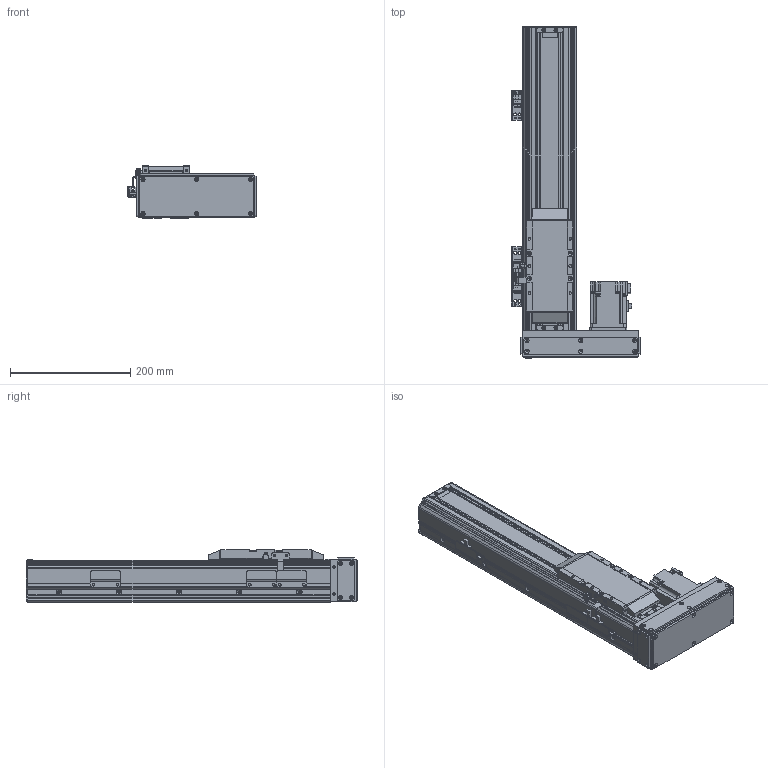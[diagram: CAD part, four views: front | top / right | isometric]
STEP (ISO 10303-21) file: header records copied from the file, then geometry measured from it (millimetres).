
FILE_DESCRIPTION(/* description */ (''),/* implementation_level */ '2;1');
FILE_NAME(/* name */ '\\192.168.0.160\disk1\HAN SHIN Master\B-설계부문\C-표준\B-2024년\BC02-표준도면\+로봇 개선표준도면\표준 승인도 폴더 - 재작업\3D\HC Type\HC90\우병렬\HC90-R20-N1B-0300-L10.stp',/* time_stamp */ '2024-03-15T14:55:09+09:00',/* author */ ('User'),/* organization */ (''),/* preprocessor_version */ 'ST-DEVELOPER v18.1',/* originating_system */ 'Autodesk Inventor 2022',/* authorisation */ '');
FILE_SCHEMA (('AUTOMOTIVE_DESIGN { 1 0 10303 214 3 1 1 }'));
Products named in the file (29): HC90-R20-N1B-0500-L10 - 간소화; HC90 S BASE 200W--; HC75-REAR BLOCK; HC75-REAR BLOCK_1; HC90 REAR COVER; HC90-UP COVER; HC90 SIDE COVER 100W G; STOPPER3; M-5UT; M-5H-4; HC75 TABLE COVER; HC65 TABLE SIDE COVER; HC75,90 SHEET PLATE; LMKE1520 NUT; HC90 TABLE - SR20W - OIL; STOPPER3_1; MOTOR PLATE - 200W; hg-kr23_; HR65-LR-BELT COVER; HC90-BELT COVER-COVER2; HR75-D-BELT COVER-COVER; HC90-BELT COVER-COVER3; 화살표; HC90 LR MOTOR PLATE_MIR; HC75 SENSOR DOG; SENSOR BRK(EE-SX674A); EE_SX674A; hsr_ftht_A-M6F_grease_nipple_joint; NIPPLE CAP(신규)
Assembly tree (39 placements, depth 2):
  HC90-R20-N1B-0500-L10 - 간소화
    HC90 S BASE 200W--
    HC90 SIDE COVER 100W G  x2
    HC75-REAR BLOCK
    HC75-REAR BLOCK_1
    HC90 REAR COVER
    HC90-UP COVER
    STOPPER3
    M-5H-4  x2
    M-5UT
    HC65 TABLE SIDE COVER  x2
    HC75 TABLE COVER
    HC75,90 SHEET PLATE  x3
    LMKE1520 NUT
    HC90 TABLE - SR20W - OIL
    STOPPER3_1
    MOTOR PLATE - 200W
    hg-kr23_
    HR65-LR-BELT COVER
    HC90-BELT COVER-COVER2
    HR75-D-BELT COVER-COVER
    HC90-BELT COVER-COVER3  x2
    화살표  x2
    HC90 LR MOTOR PLATE_MIR
    EE_SX674A  x3
    HC75 SENSOR DOG
    SENSOR BRK(EE-SX674A)  x3
    hsr_ftht_A-M6F_grease_nipple_joint
    NIPPLE CAP(신규)
Bounding box: 215 x 552 x 88 mm (x, y, z)
Volume: 1596763.2 mm3; surface area: 758991.1 mm2
Topology: 41 solids, 41 shells, 2819 faces, 7764 edges, 5109 vertices
Faces by surface type: plane 1927, cylinder 686, cone 188, sphere 8, torus 6, bspline 4
Full cylindrical faces by diameter (mm): 1.8 x2, 2.459 x56, 2.5 x3, 3 x8, 3.242 x35, 3.4 x28, 3.5 x16, 4 x2, 4.134 x40, 4.5 x29, 4.917 x3, 5 x29, 5.5 x18, 5.6 x9, 5.8 x4, 5.9 x8, 6 x5, 6.5 x4, 6.8 x1, 7 x3, 8 x2, 9.5 x14, 10.5 x4, 14 x1, 15 x3, 17 x1, 20 x1, 22 x1, 25 x1, 28 x1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
Entity records: 80005 total; most frequent: CARTESIAN_POINT 14597, ORIENTED_EDGE 13244, DIRECTION 12706, EDGE_CURVE 6622, LINE 5174, VECTOR 5174, VERTEX_POINT 4401, AXIS2_PLACEMENT_3D 3766
